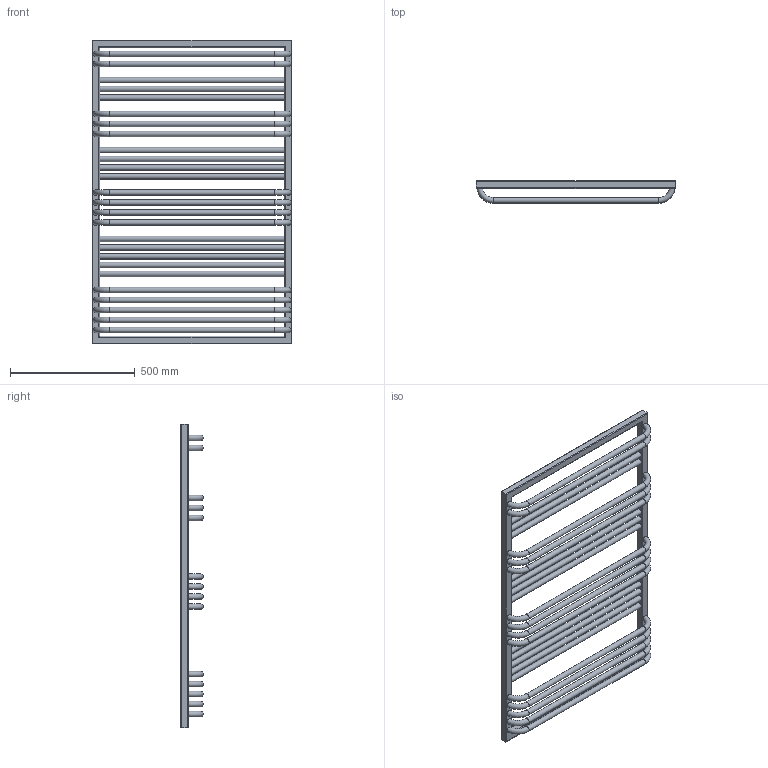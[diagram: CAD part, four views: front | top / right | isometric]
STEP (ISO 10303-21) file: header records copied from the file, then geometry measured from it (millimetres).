
FILE_DESCRIPTION((''),'2;1');
FILE_NAME('Z:\R\G\P\RGPH18 - Grzejnik POC\Work\Inventor\POC 1-6-8 v2.0\Marketing\AutoCad 3D\POC-1215-800-1-6-8.stp','2012-07-12T14:39:21',('KurKa'),(''),'Autodesk Inventor 2012','Autodesk Inventor 2012','');
FILE_SCHEMA(('AUTOMOTIVE_DESIGN { 1 0 10303 214 1 1 1 1 }'));
Length unit declared in the file: millimetre
Products named in the file (1): POC-1215-800-1-6-8
Bounding box: 800 x 90 x 1215 mm (x, y, z)
Volume: 11230167.4 mm3; surface area: 1839465.6 mm2
Topology: 1 solids, 1 shells, 89 faces, 233 edges, 149 vertices
Faces by surface type: cylinder 45, torus 31, plane 13
Full cylindrical faces by diameter (mm): 18.631 x3, 22 x26
Entity records: 4078 total; most frequent: CARTESIAN_POINT 2176, DIRECTION 374, ORIENTED_EDGE 290, EDGE_LOOP 206, AXIS2_PLACEMENT_3D 167, EDGE_CURVE 145, VERTEX_POINT 121, FACE_BOUND 117
